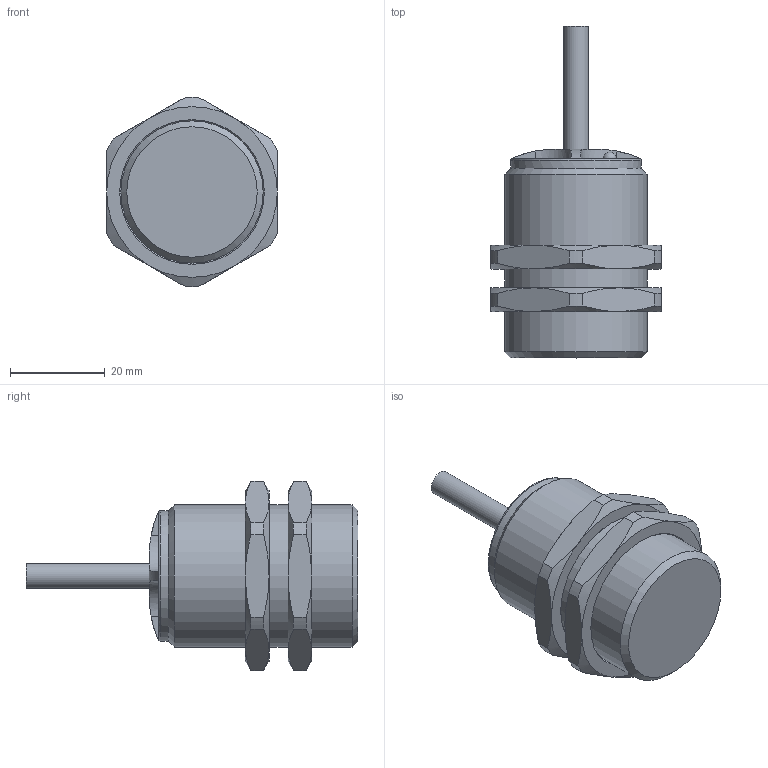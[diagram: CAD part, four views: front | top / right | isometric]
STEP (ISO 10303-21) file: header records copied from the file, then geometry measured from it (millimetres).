
FILE_DESCRIPTION((''),'2;1');
FILE_NAME('C:\TurckZip\Bi-G30K-X.stp','2010-11-04T15:01:21',('IKOROL'),(''),'Autodesk Inventor 2010','Autodesk Inventor 2010','');
FILE_SCHEMA(('CONFIG_CONTROL_DESIGN'));
Length unit declared in the file: millimetre
Products named in the file (1): Part7
Bounding box: 36 x 70 x 39.99 mm (x, y, z)
Surface area: 7820.6 mm2
Topology: 3 solids, 4 shells, 104 faces, 242 edges, 149 vertices
Faces by surface type: plane 40, cone 30, cylinder 21, bspline 10, torus 2, sphere 1
Full cylindrical faces by diameter (mm): 5.2 x1, 27.5 x1, 30 x3
Entity records: 3080 total; most frequent: CARTESIAN_POINT 866, DIRECTION 426, ORIENTED_EDGE 420, EDGE_CURVE 210, AXIS2_PLACEMENT_3D 193, VERTEX_POINT 139, EDGE_LOOP 132, FACE_OUTER_BOUND 104
